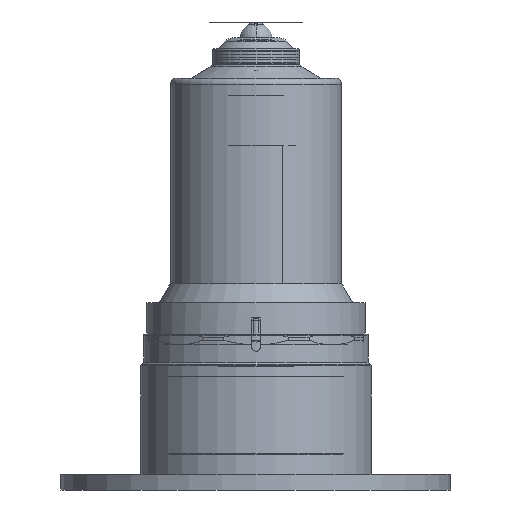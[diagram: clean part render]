
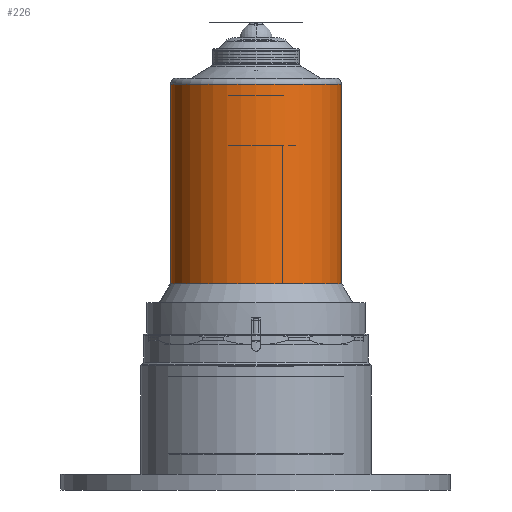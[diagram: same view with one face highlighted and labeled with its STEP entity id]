
A CAD part, front view. The second image highlights one B-rep face of the part: STEP entity #226.
In plain terms, the highlighted cylindrical face has radius 27.5 mm (diameter 55 mm), a partial arc.
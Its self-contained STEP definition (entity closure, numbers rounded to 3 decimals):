
#226 = ADVANCED_FACE ( 'NONE', ( #14153 ), #6909, .T. ) ;
#452 = CARTESIAN_POINT ( 'NONE',  ( 27.5, 0., 125. ) ) ;
#509 = ORIENTED_EDGE ( 'NONE', *, *, #16147, .F. ) ;
#577 = EDGE_LOOP ( 'NONE', ( #4733, #4027, #7515, #509 ) ) ;
#1577 = LINE ( 'NONE', #15835, #8868 ) ;
#2079 = CARTESIAN_POINT ( 'NONE',  ( 0., 0., 125. ) ) ;
#2816 = CARTESIAN_POINT ( 'NONE',  ( 27.5, 0., 61.062 ) ) ;
#3317 = AXIS2_PLACEMENT_3D ( 'NONE', #7223, #13225, #5839 ) ;
#4027 = ORIENTED_EDGE ( 'NONE', *, *, #10413, .T. ) ;
#4733 = ORIENTED_EDGE ( 'NONE', *, *, #10234, .T. ) ;
#5839 = DIRECTION ( 'NONE',  ( 1., 0., 0. ) ) ;
#6909 = CYLINDRICAL_SURFACE ( 'NONE', #3317, 27.5 ) ;
#6975 = CARTESIAN_POINT ( 'NONE',  ( 0., 0., 61.062 ) ) ;
#7223 = CARTESIAN_POINT ( 'NONE',  ( 0., 0., 118. ) ) ;
#7515 = ORIENTED_EDGE ( 'NONE', *, *, #10659, .F. ) ;
#7557 = VECTOR ( 'NONE', #18319, 1000. ) ;
#8071 = AXIS2_PLACEMENT_3D ( 'NONE', #6975, #9781, #9992 ) ;
#8868 = VECTOR ( 'NONE', #18691, 1000. ) ;
#9579 = DIRECTION ( 'NONE',  ( -1., 0., 0. ) ) ;
#9781 = DIRECTION ( 'NONE',  ( 0., 0., -1. ) ) ;
#9992 = DIRECTION ( 'NONE',  ( -1., 0., 0. ) ) ;
#10234 = EDGE_CURVE ( 'NONE', #13031, #14421, #16787, .T. ) ;
#10413 = EDGE_CURVE ( 'NONE', #14421, #12104, #1577, .T. ) ;
#10659 = EDGE_CURVE ( 'NONE', #11252, #12104, #14738, .T. ) ;
#11252 = VERTEX_POINT ( 'NONE', #2816 ) ;
#11505 = LINE ( 'NONE', #15496, #7557 ) ;
#12104 = VERTEX_POINT ( 'NONE', #14006 ) ;
#13031 = VERTEX_POINT ( 'NONE', #452 ) ;
#13225 = DIRECTION ( 'NONE',  ( 0., 0., -1. ) ) ;
#14006 = CARTESIAN_POINT ( 'NONE',  ( -27.5, 0., 61.062 ) ) ;
#14153 = FACE_OUTER_BOUND ( 'NONE', #577, .T. ) ;
#14421 = VERTEX_POINT ( 'NONE', #17724 ) ;
#14738 = CIRCLE ( 'NONE', #8071, 27.5 ) ;
#15496 = CARTESIAN_POINT ( 'NONE',  ( 27.5, 0., 118. ) ) ;
#15835 = CARTESIAN_POINT ( 'NONE',  ( -27.5, 0., 118. ) ) ;
#16147 = EDGE_CURVE ( 'NONE', #13031, #11252, #11505, .T. ) ;
#16787 = CIRCLE ( 'NONE', #16820, 27.5 ) ;
#16820 = AXIS2_PLACEMENT_3D ( 'NONE', #2079, #17141, #9579 ) ;
#17141 = DIRECTION ( 'NONE',  ( 0., 0., -1. ) ) ;
#17724 = CARTESIAN_POINT ( 'NONE',  ( -27.5, 0., 125. ) ) ;
#18319 = DIRECTION ( 'NONE',  ( 0., 0., -1. ) ) ;
#18691 = DIRECTION ( 'NONE',  ( 0., 0., -1. ) ) ;
